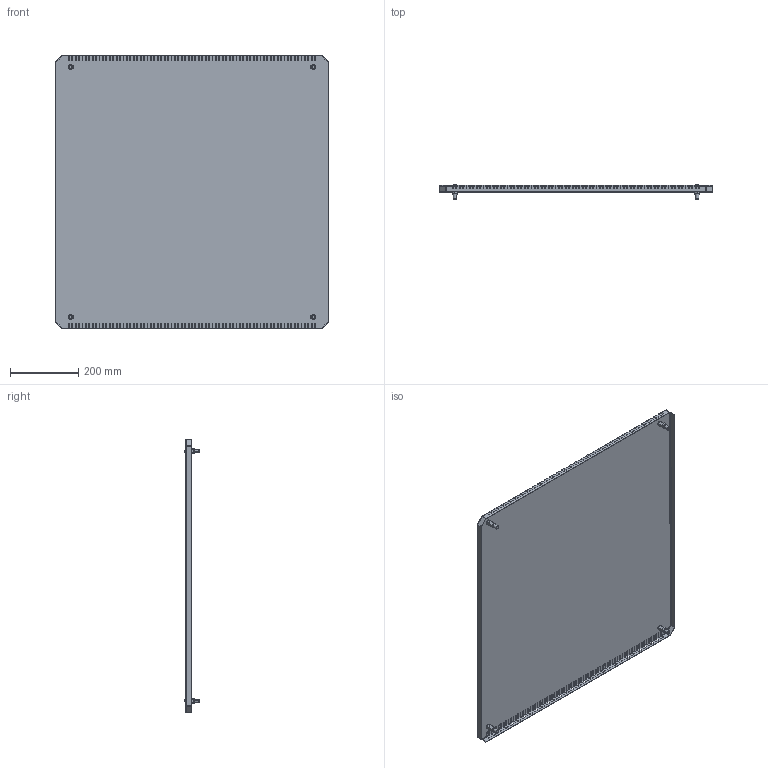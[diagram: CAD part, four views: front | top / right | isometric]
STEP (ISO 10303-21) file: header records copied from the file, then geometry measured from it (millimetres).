
FILE_DESCRIPTION (( 'STEP AP203' ), '1' );
FILE_NAME ('R 80.80 I Ïàíåëü òåëåêîììóíèêàöèîííàÿ ïîòîëî÷íàÿ.STEP', '2013-01-12T08:45:19', ( 'System' ), ( '' ), 'SwSTEP 2.0', 'SolidWorks 2012', '' );
FILE_SCHEMA (( 'CONFIG_CONTROL_DESIGN' ));
Products named in the file (1): R 80.80 I Ïàíåëü òåëåêîììóíèêàöèîííàÿ ïîòîëî÷íàÿ
Bounding box: 800 x 42.72 x 800 mm (x, y, z)
Volume: 834958.5 mm3; surface area: 1383516.7 mm2
Topology: 5 solids, 9 shells, 1754 faces, 4752 edges, 2728 vertices
Faces by surface type: plane 1310, cylinder 348, cone 56, bspline 16, torus 16, sphere 8
Entity records: 54709 total; most frequent: CARTESIAN_POINT 10615, ORIENTED_EDGE 9472, DIRECTION 8896, EDGE_CURVE 4736, VECTOR 3818, LINE 3818, VERTEX_POINT 2728, AXIS2_PLACEMENT_3D 2539
